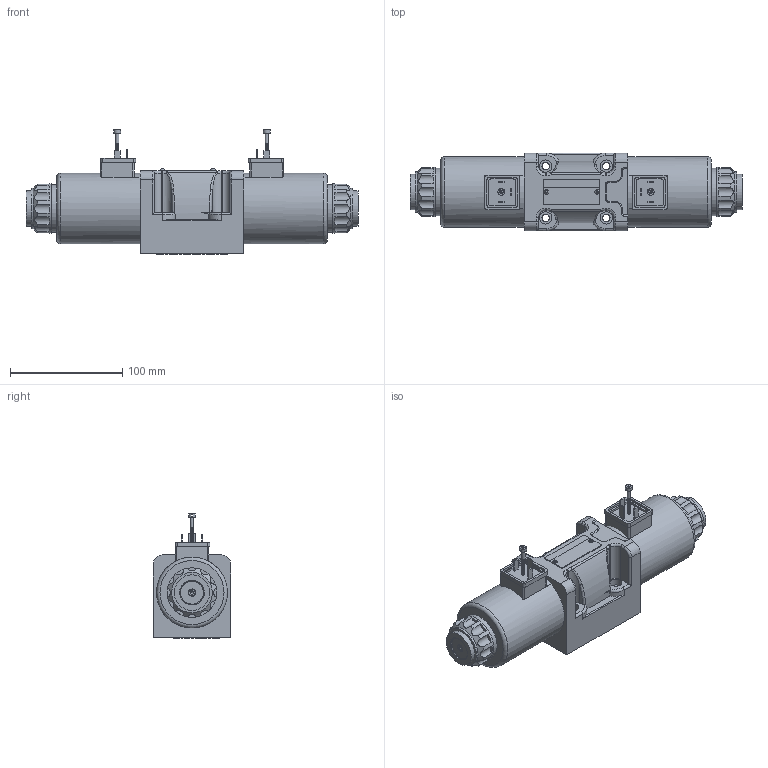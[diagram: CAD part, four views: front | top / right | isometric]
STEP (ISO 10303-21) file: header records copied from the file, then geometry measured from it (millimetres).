
FILE_DESCRIPTION(/* description */ (''),/* implementation_level */ '2;1');
FILE_NAME(/* name */ '4WE10J-5XJ CG24N9Z5L三维模型.prt.stp',/* time_stamp */ '2022-08-15T21:48:47+08:00',/* author */ (''),/* organization */ (''),/* preprocessor_version */ 'ST-DEVELOPER v16.7',/* originating_system */ 'SIEMENS PLM Software NX 12.0',/* authorisation */ '');
FILE_SCHEMA (('AUTOMOTIVE_DESIGN { 1 0 10303 214 3 1 1 1 }'));
Products named in the file (1): 4WE10J-5XJ CG24N9Z5L三维模型
Bounding box: 295.4 x 69 x 110.5 mm (x, y, z)
Volume: 598689.8 mm3; surface area: 251636.1 mm2
Topology: 26 solids, 29 shells, 885 faces, 2155 edges, 1412 vertices
Faces by surface type: plane 402, cylinder 283, bspline 84, cone 84, torus 27, sphere 4, extrusion 1
Full cylindrical faces by diameter (mm): 1.8 x4, 2.5 x2, 3 x82, 5.95 x2, 6 x6, 6.5 x2, 6.6 x4, 7 x2, 11 x9, 11.6 x2, 15.7 x5, 16.5 x2, 17 x2, 21.4 x2, 22 x2, 23 x2, 28 x2, 31 x2, 31.2 x2, 31.4 x8, 31.5 x2, 33 x3, 35.4 x2, 36 x2, 42 x2, 44 x2, 59 x4, 63 x2
Entity records: 67173 total; most frequent: CARTESIAN_POINT 48980, DIRECTION 3347, ORIENTED_EDGE 3304, EDGE_CURVE 1652, AXIS2_PLACEMENT_3D 1284, VERTEX_POINT 1176, EDGE_LOOP 1087, ADVANCED_FACE 805
